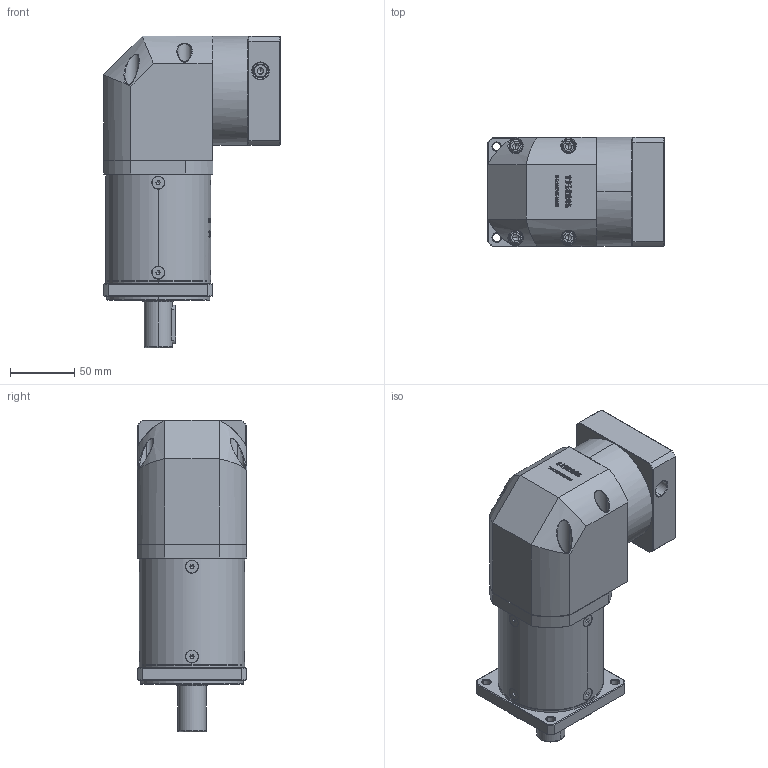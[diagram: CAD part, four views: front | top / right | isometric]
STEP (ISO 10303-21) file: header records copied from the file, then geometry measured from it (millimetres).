
FILE_DESCRIPTION (( 'STEP AP214' ), '1' );
FILE_NAME ('ZF80-D22-L3-16-80-100-M6.step', '2022-05-08T12:01:37', ( '' ), ( 'Microsoft' ), 'SwSTEP 2.0', 'SolidWorks 2016', '' );
FILE_SCHEMA (( 'AUTOMOTIVE_DESIGN' ));
Length unit declared in the file: millimetre
Products named in the file (1): ZF80-D22-L3-16-80-100-M6
Bounding box: 137.6 x 85 x 242.5 mm (x, y, z)
Volume: 1462446.5 mm3; surface area: 145866.3 mm2
Topology: 13 solids, 13 shells, 3059 faces, 8032 edges, 5123 vertices
Faces by surface type: plane 1617, bspline 624, cylinder 441, cone 363, torus 14
Entity records: 164980 total; most frequent: CARTESIAN_POINT 61633, ORIENTED_EDGE 15972, DIRECTION 12019, EDGE_CURVE 7986, VERTEX_POINT 5123, VECTOR 4967, LINE 4967, AXIS2_PLACEMENT_3D 3526
